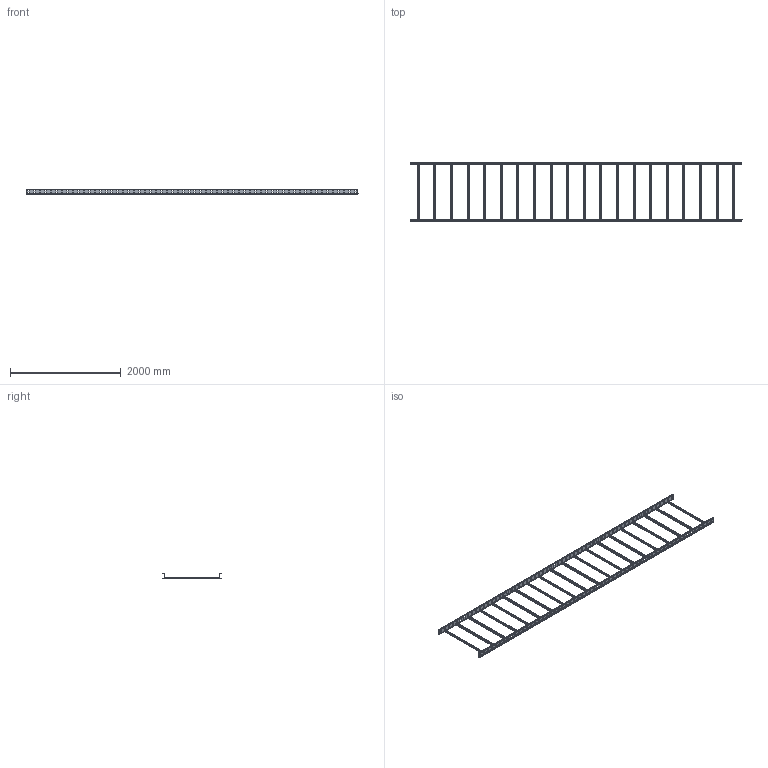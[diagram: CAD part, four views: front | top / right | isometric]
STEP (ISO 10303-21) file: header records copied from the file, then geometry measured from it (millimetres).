
FILE_DESCRIPTION(('Creo Elements/Direct Modeling STEP Export'),'2;1');
FILE_NAME('//pserver/office/EK/ME10-3D/3D-output/WP10-100-HDG.stp','2020-12-09T 9:41:32',(''),(''),'PTC Creo Elements/Direct Modeling STEP processor for AP214 (Solid Model)','PTC Creo Elements/Direct Modeling 19.0C 15-Aug-2015 (C) Parametric Technology GmbH','');
FILE_SCHEMA(('AUTOMOTIVE_DESIGN { 1 0 10303 214 1 1 1 1 }'));
Length unit declared in the file: millimetre
Products named in the file (3): WPH_100B_S_; WPSP_10.8; WP10-100-HDG
Assembly tree (22 placements, depth 2):
  WP10-100-HDG
    WPSP_10.8  x20
    WPH_100B_S_  x2
Bounding box: 6000 x 1050 x 100 mm (x, y, z)
Volume: 5748811.2 mm3; surface area: 7818724.7 mm2
Topology: 22 solids, 22 shells, 5196 faces, 15456 edges, 10304 vertices
Faces by surface type: plane 3088, cylinder 2108
Entity records: 26099 total; most frequent: ORIENTED_EDGE 4548, CARTESIAN_POINT 4531, DIRECTION 4066, EDGE_CURVE 2274, VECTOR 1964, LINE 1964, VERTEX_POINT 1516, EDGE_LOOP 1120
